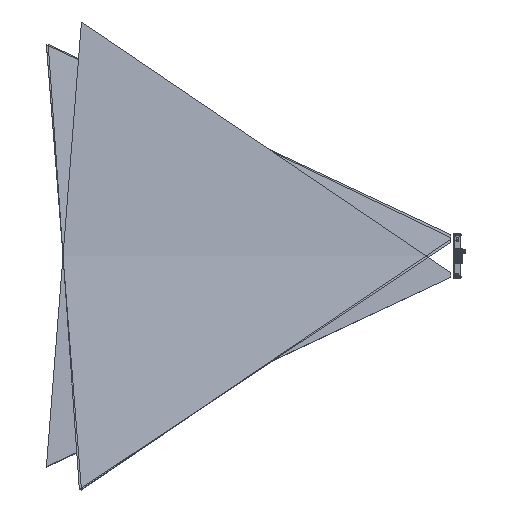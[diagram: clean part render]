
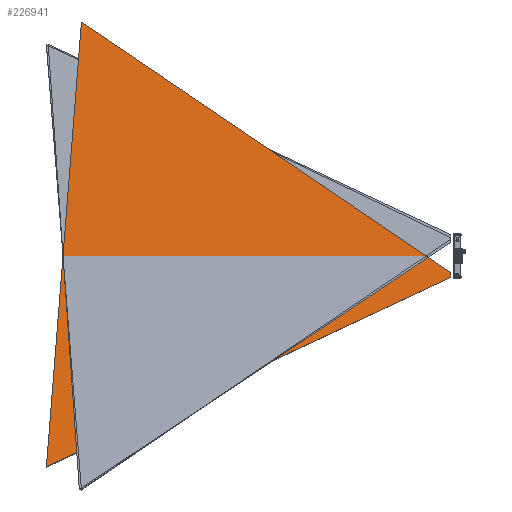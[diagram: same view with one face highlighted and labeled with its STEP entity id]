
A CAD part, top view. The second image highlights one B-rep face of the part: STEP entity #226941.
In plain terms, the highlighted planar face has unit normal (0.413, -0.033, 0.91).
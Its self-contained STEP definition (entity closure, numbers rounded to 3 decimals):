
#226830=DIRECTION('',(-0.842,-0.394,0.368));
#226831=VECTOR('',#226830,4894.776);
#226832=CARTESIAN_POINT('',(-65.5,-218.542,
19.135));
#226833=LINE('',#226832,#226831);
#226850=DIRECTION('',(0.77,-0.521,-0.368));
#226851=VECTOR('',#226850,4889.904);
#226852=CARTESIAN_POINT('',(-3831.054,2381.138,
1818.691));
#226853=LINE('',#226852,#226851);
#226858=DIRECTION('',(0.,-0.999,
-0.036));
#226859=VECTOR('',#226858,50.24);
#226860=CARTESIAN_POINT('',(-65.5,-168.334,
20.926));
#226861=LINE('',#226860,#226859);
#226862=DIRECTION('',(0.078,0.997,0.));
#226863=VECTOR('',#226862,4544.633);
#226864=CARTESIAN_POINT('',(-4187.622,-2149.485,
1818.691));
#226865=LINE('',#226864,#226863);
#226867=CARTESIAN_POINT('',(-65.5,-218.542,
19.135));
#226869=VERTEX_POINT('',#226867);
#226870=CARTESIAN_POINT('',(-4187.622,-2149.485,
1818.691));
#226872=VERTEX_POINT('',#226870);
#226878=CARTESIAN_POINT('',(-65.5,-168.334,
20.926));
#226879=VERTEX_POINT('',#226878);
#226880=CARTESIAN_POINT('',(-3831.054,2381.138,
1818.691));
#226881=VERTEX_POINT('',#226880);
#226928=CARTESIAN_POINT('',(-2036.481,-39.441,
918.913));
#226929=DIRECTION('',(0.413,-0.032,0.91));
#226930=DIRECTION('',(0.908,-0.071,-0.414));
#226931=AXIS2_PLACEMENT_3D('',#226928,#226929,#226930);
#226932=PLANE('',#226931);
#226934=ORIENTED_EDGE('',*,*,#226933,.T.);
#226935=ORIENTED_EDGE('',*,*,#226893,.T.);
#226937=ORIENTED_EDGE('',*,*,#226936,.T.);
#226938=ORIENTED_EDGE('',*,*,#226920,.T.);
#226939=EDGE_LOOP('',(#226934,#226935,#226937,#226938));
#226940=FACE_OUTER_BOUND('',#226939,.F.);
#226893=EDGE_CURVE('',#226869,#226872,#226833,.T.);
#226920=EDGE_CURVE('',#226881,#226879,#226853,.T.);
#226933=EDGE_CURVE('',#226879,#226869,#226861,.T.);
#226936=EDGE_CURVE('',#226872,#226881,#226865,.T.);
#226941=ADVANCED_FACE('',(#226940),#226932,.T.);
